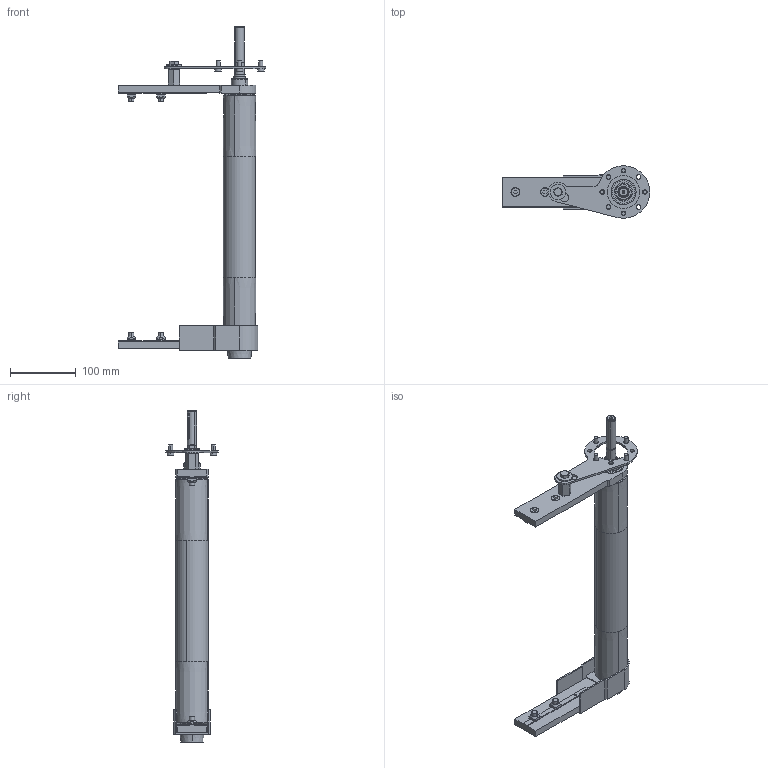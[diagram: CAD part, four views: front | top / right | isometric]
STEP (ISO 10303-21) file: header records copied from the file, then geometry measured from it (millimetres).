
FILE_DESCRIPTION (( 'STEP AP203' ), '1' );
FILE_NAME ('084.050.KD.30.350.STEP', '2019-05-10T14:54:36', ( 'Localadmin' ), ( 'Microsoft' ), 'SwSTEP 2.0', 'SolidWorks 2018', '' );
FILE_SCHEMA (( 'CONFIG_CONTROL_DESIGN' ));
Length unit declared in the file: millimetre
Products named in the file (19): VITI TE UNI 5739_M8x25 UNI 5739; 084.811.001; 084.802.023_084.802.023; 084.807.005; 084.807.002_084.807.002; 084.000.A02_CON DADO; 084.802.027; 084.807.003_084.807.003; 084.301.000 VITI ALUSIC_084.301.003; GRANI A PUNTA PIATTA UNI 5923_M8x25 UNI 5923; 084.802.017_084.802.017; 084.302.000 DADI ALUSIC 13x13_084.302.004; 084.301.000 VITI ALUSIC_084.301.010; 084.811.004; 084.050.KD.30.350; DADI ESAGONALI RIBASSATI UNI 5589_M8 UNI 5589; 084.815.128_Default<A macchina>; RONDELLE FASCIA LARGA UNI 6593_8.4x24 UNI 6593; 084.810.001
Assembly tree (29 placements, depth 3):
  084.050.KD.30.350
    084.807.002_084.807.002
    084.807.003_084.807.003
    084.802.017_084.802.017  x2
    084.811.004
    084.815.128_Default<A macchina>
    084.810.001  x2
    084.811.001
    084.802.023_084.802.023
    084.000.A02_CON DADO
      084.807.005
      084.802.027
      GRANI A PUNTA PIATTA UNI 5923_M8x25 UNI 5923
      084.301.000 VITI ALUSIC_084.301.010  x4
      DADI ESAGONALI RIBASSATI UNI 5589_M8 UNI 5589
      RONDELLE FASCIA LARGA UNI 6593_8.4x24 UNI 6593
      VITI TE UNI 5739_M8x25 UNI 5739
    084.301.000 VITI ALUSIC_084.301.003  x4
    084.302.000 DADI ALUSIC 13x13_084.302.004  x4
Bounding box: 225 x 80 x 506.5 mm (x, y, z)
Volume: 570240.9 mm3; surface area: 335890 mm2
Topology: 30 solids, 32 shells, 813 faces, 1986 edges, 1280 vertices
Faces by surface type: plane 362, cylinder 259, cone 98, torus 78, sphere 8, bspline 8
Entity records: 19942 total; most frequent: CARTESIAN_POINT 3607, DIRECTION 3101, ORIENTED_EDGE 2812, EDGE_CURVE 1406, AXIS2_PLACEMENT_3D 1208, VERTEX_POINT 910, LINE 685, VECTOR 685
